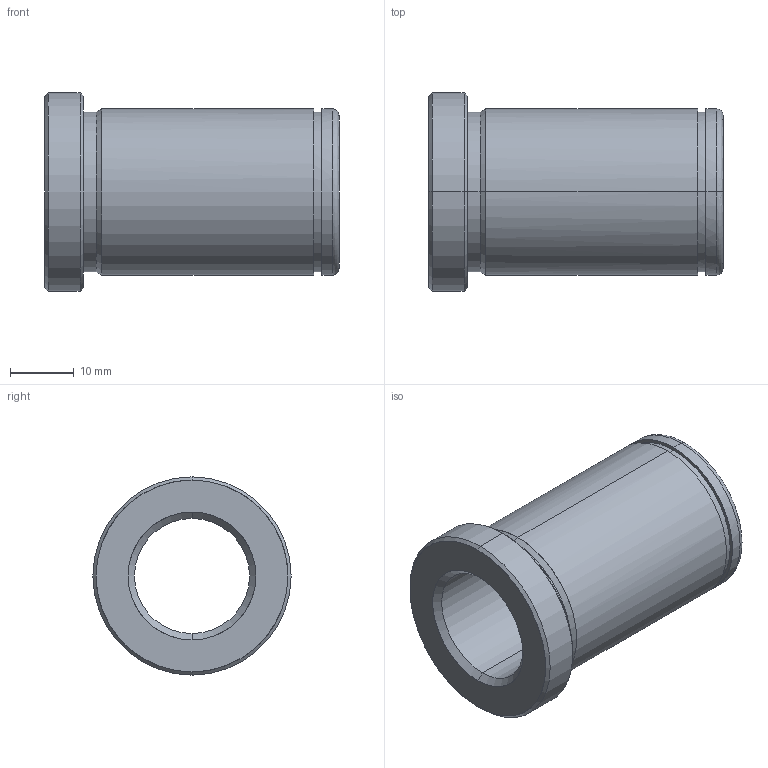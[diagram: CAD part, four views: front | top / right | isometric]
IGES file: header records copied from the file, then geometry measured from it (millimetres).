
Start section: START RECORD GO HERE.
Global section: file name: 553-18X46.igs; native system: DASSAULT SYSTEMES CATIA V5 R20 - www.3ds.com; preprocessor: CATIA Version 5 Release 20 ; author: Utente; organization: NB04-ASUS; date: 20210523.192955; units: millimetre
Bounding box: 46 x 31 x 31 mm (x, y, z)
Surface area: 7412.2 mm2 (no closed solid volume)
Topology: 0 solids, 0 shells, 29 faces, 184 edges, 184 vertices
Faces by surface type: revolution 24, plane 5
